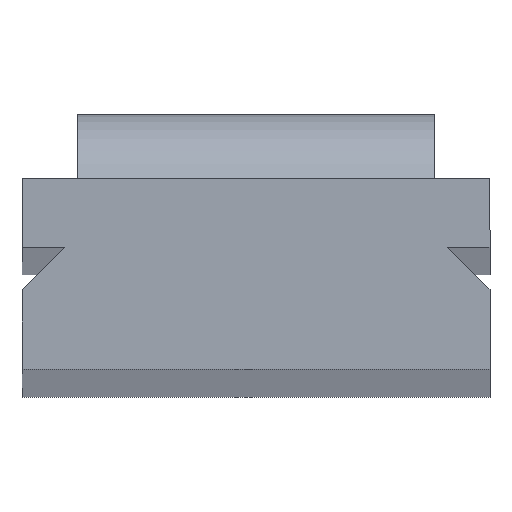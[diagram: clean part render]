
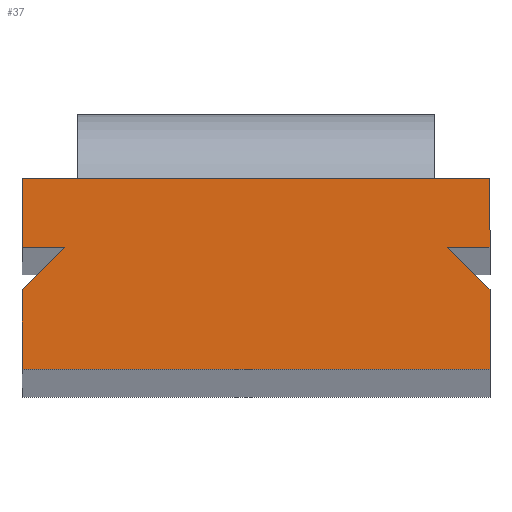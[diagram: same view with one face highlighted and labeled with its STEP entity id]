
A CAD part, top view. The second image highlights one B-rep face of the part: STEP entity #37.
In plain terms, the highlighted planar face has unit normal (0, 0, 1).
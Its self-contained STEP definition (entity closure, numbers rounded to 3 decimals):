
#8 = ORIENTED_EDGE ( 'NONE', *, *, #1470, .T. ) ;
#37 = ADVANCED_FACE ( 'NONE', ( #4586 ), #254, .F. ) ;
#66 = EDGE_CURVE ( 'NONE', #6128, #3137, #4702, .T. ) ;
#155 = ORIENTED_EDGE ( 'NONE', *, *, #5558, .T. ) ;
#240 = DIRECTION ( 'NONE',  ( -0.707, -0.707, 0. ) ) ;
#246 = ORIENTED_EDGE ( 'NONE', *, *, #340, .T. ) ;
#254 = PLANE ( 'NONE',  #2101 ) ;
#263 = VERTEX_POINT ( 'NONE', #5734 ) ;
#340 = EDGE_CURVE ( 'NONE', #4266, #6128, #646, .T. ) ;
#363 = DIRECTION ( 'NONE',  ( 0., 1., 0. ) ) ;
#471 = CARTESIAN_POINT ( 'NONE',  ( -44., 0., 40. ) ) ;
#646 = LINE ( 'NONE', #3521, #3631 ) ;
#804 = DIRECTION ( 'NONE',  ( 0., -1., 0. ) ) ;
#910 = VECTOR ( 'NONE', #804, 1000. ) ;
#920 = LINE ( 'NONE', #4335, #5263 ) ;
#991 = CARTESIAN_POINT ( 'NONE',  ( -44., 0., 40. ) ) ;
#1078 = CARTESIAN_POINT ( 'NONE',  ( 0., 0., 40. ) ) ;
#1104 = LINE ( 'NONE', #1140, #4358 ) ;
#1140 = CARTESIAN_POINT ( 'NONE',  ( -44., 23., 40. ) ) ;
#1232 = VERTEX_POINT ( 'NONE', #2043 ) ;
#1253 = VERTEX_POINT ( 'NONE', #5433 ) ;
#1292 = VERTEX_POINT ( 'NONE', #2647 ) ;
#1430 = ORIENTED_EDGE ( 'NONE', *, *, #2176, .T. ) ;
#1470 = EDGE_CURVE ( 'NONE', #5332, #1292, #2290, .T. ) ;
#1476 = CARTESIAN_POINT ( 'NONE',  ( -44., 36., 40. ) ) ;
#1477 = EDGE_CURVE ( 'NONE', #4267, #1764, #5711, .T. ) ;
#1575 = DIRECTION ( 'NONE',  ( -1., 0., 0. ) ) ;
#1581 = LINE ( 'NONE', #3047, #3942 ) ;
#1583 = LINE ( 'NONE', #2596, #1619 ) ;
#1619 = VECTOR ( 'NONE', #240, 1000. ) ;
#1764 = VERTEX_POINT ( 'NONE', #991 ) ;
#1831 = ORIENTED_EDGE ( 'NONE', *, *, #4017, .T. ) ;
#1844 = CARTESIAN_POINT ( 'NONE',  ( -44., 23., 40. ) ) ;
#1880 = DIRECTION ( 'NONE',  ( 0., -1., 0. ) ) ;
#2043 = CARTESIAN_POINT ( 'NONE',  ( -36., 23., 40. ) ) ;
#2100 = ORIENTED_EDGE ( 'NONE', *, *, #66, .T. ) ;
#2101 = AXIS2_PLACEMENT_3D ( 'NONE', #1078, #3993, #1575 ) ;
#2160 = VECTOR ( 'NONE', #5679, 1000. ) ;
#2176 = EDGE_CURVE ( 'NONE', #1764, #1253, #3974, .T. ) ;
#2290 = LINE ( 'NONE', #4231, #2160 ) ;
#2506 = DIRECTION ( 'NONE',  ( -1., 0., 0. ) ) ;
#2596 = CARTESIAN_POINT ( 'NONE',  ( -44., 15., 40. ) ) ;
#2647 = CARTESIAN_POINT ( 'NONE',  ( 44., 23., 40. ) ) ;
#2653 = CARTESIAN_POINT ( 'NONE',  ( 36., 23., 40. ) ) ;
#2678 = EDGE_LOOP ( 'NONE', ( #4972, #1430, #5371, #4749, #8, #155, #246, #2100, #1831, #4201 ) ) ;
#2820 = CARTESIAN_POINT ( 'NONE',  ( 44., 0., 40. ) ) ;
#2874 = CARTESIAN_POINT ( 'NONE',  ( -44., 15., 40. ) ) ;
#2878 = VECTOR ( 'NONE', #4915, 1000. ) ;
#3035 = DIRECTION ( 'NONE',  ( 1., 0., 0. ) ) ;
#3047 = CARTESIAN_POINT ( 'NONE',  ( 44., 15., 40. ) ) ;
#3137 = VERTEX_POINT ( 'NONE', #1844 ) ;
#3198 = DIRECTION ( 'NONE',  ( -0.707, 0.707, 0. ) ) ;
#3411 = EDGE_CURVE ( 'NONE', #1232, #4267, #1583, .T. ) ;
#3521 = CARTESIAN_POINT ( 'NONE',  ( 44., 36., 40. ) ) ;
#3522 = EDGE_CURVE ( 'NONE', #1253, #263, #4191, .T. ) ;
#3631 = VECTOR ( 'NONE', #2506, 1000. ) ;
#3755 = CARTESIAN_POINT ( 'NONE',  ( -44., 36., 40. ) ) ;
#3867 = CARTESIAN_POINT ( 'NONE',  ( 44., 36., 40. ) ) ;
#3896 = DIRECTION ( 'NONE',  ( 0., 1., 0. ) ) ;
#3942 = VECTOR ( 'NONE', #3198, 1000. ) ;
#3974 = LINE ( 'NONE', #4323, #2878 ) ;
#3993 = DIRECTION ( 'NONE',  ( 0., 0., -1. ) ) ;
#4017 = EDGE_CURVE ( 'NONE', #3137, #1232, #1104, .T. ) ;
#4191 = LINE ( 'NONE', #2820, #4963 ) ;
#4201 = ORIENTED_EDGE ( 'NONE', *, *, #3411, .T. ) ;
#4231 = CARTESIAN_POINT ( 'NONE',  ( 44., 23., 40. ) ) ;
#4266 = VERTEX_POINT ( 'NONE', #3867 ) ;
#4267 = VERTEX_POINT ( 'NONE', #2874 ) ;
#4323 = CARTESIAN_POINT ( 'NONE',  ( -44., 0., 40. ) ) ;
#4335 = CARTESIAN_POINT ( 'NONE',  ( 44., 36., 40. ) ) ;
#4358 = VECTOR ( 'NONE', #3035, 1000. ) ;
#4586 = FACE_OUTER_BOUND ( 'NONE', #2678, .T. ) ;
#4702 = LINE ( 'NONE', #3755, #910 ) ;
#4749 = ORIENTED_EDGE ( 'NONE', *, *, #4938, .T. ) ;
#4915 = DIRECTION ( 'NONE',  ( 1., 0., 0. ) ) ;
#4938 = EDGE_CURVE ( 'NONE', #263, #5332, #1581, .T. ) ;
#4963 = VECTOR ( 'NONE', #363, 1000. ) ;
#4972 = ORIENTED_EDGE ( 'NONE', *, *, #1477, .T. ) ;
#5000 = VECTOR ( 'NONE', #1880, 1000. ) ;
#5263 = VECTOR ( 'NONE', #3896, 1000. ) ;
#5332 = VERTEX_POINT ( 'NONE', #2653 ) ;
#5371 = ORIENTED_EDGE ( 'NONE', *, *, #3522, .T. ) ;
#5433 = CARTESIAN_POINT ( 'NONE',  ( 44., 0., 40. ) ) ;
#5558 = EDGE_CURVE ( 'NONE', #1292, #4266, #920, .T. ) ;
#5679 = DIRECTION ( 'NONE',  ( 1., 0., 0. ) ) ;
#5711 = LINE ( 'NONE', #471, #5000 ) ;
#5734 = CARTESIAN_POINT ( 'NONE',  ( 44., 15., 40. ) ) ;
#6128 = VERTEX_POINT ( 'NONE', #1476 ) ;
